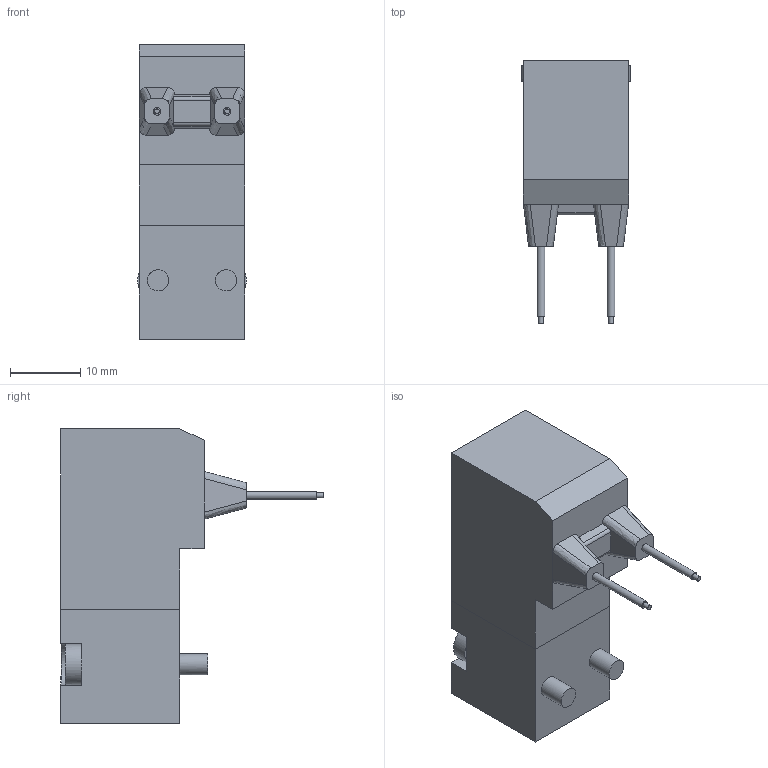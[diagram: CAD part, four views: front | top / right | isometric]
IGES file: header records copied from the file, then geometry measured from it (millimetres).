
Global section: file name: N3##_R2#-8; native system: Autodesk Inventor 2014; preprocessor: unknown; author: A. Manieri; organization: Pneumax S.p.A.; date: 20160908.143352; units: millimetre
Bounding box: 15.5 x 37.5 x 42 mm (x, y, z)
Volume: 11852.6 mm3; surface area: 3895.4 mm2
Topology: 1 solids, 1 shells, 104 faces, 260 edges, 168 vertices
Faces by surface type: bspline 104
